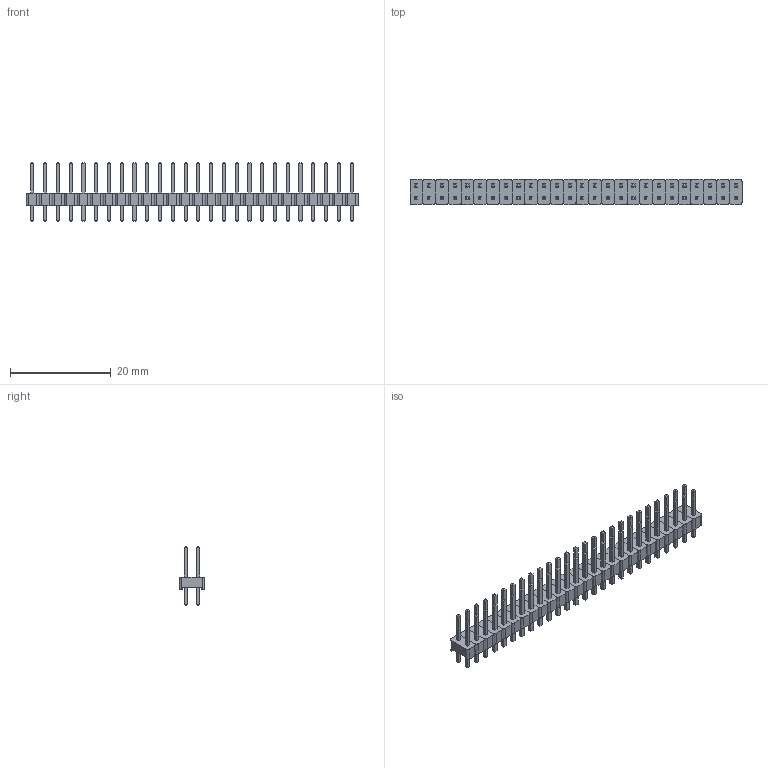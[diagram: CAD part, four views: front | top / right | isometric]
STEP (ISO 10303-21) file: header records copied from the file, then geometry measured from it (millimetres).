
FILE_DESCRIPTION(('FreeCAD Model'),'2;1');
FILE_NAME('Open CASCADE Shape Model','2022-04-06T16:02:27',( 'Engenharia Metaltex'),('Metaltex'), 'Open CASCADE STEP processor 7.5','FreeCAD','Unknown');
FILE_SCHEMA(('AUTOMOTIVE_DESIGN { 1 0 10303 214 1 1 1 1 }'));
Length unit declared in the file: millimetre
Products named in the file (105): BPDC; 26; Base025; Pino052; Pino051; 1; Base; Pino1; Pino2; 2; Base001; Pino003; Pino004; 3; Base002; Pino006; Pino005; 4; Base003; Pino008; Pino007; 5; Base004; Pino009; Pino010; 6; Base005; Pino012; Pino011; 7; Base006; Pino013; Pino014; 8; Base007; Pino015; Pino016; 9; Base008; Pino017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
Assembly tree (104 placements, depth 3):
  BPDC
    26
      Base025
      Pino052
      Pino051
    1
      Base
      Pino1
      Pino2
    2
      Base001
      Pino003
      Pino004
    3
      Base002
      Pino006
      Pino005
    4
      Base003
      Pino008
      Pino007
    5
      Base004
      Pino009
      Pino010
    6
      Base005
      Pino012
      Pino011
    7
      Base006
      Pino013
      Pino014
    8
      Base007
      Pino015
      Pino016
    9
      Base008
      Pino017
      Pino018
    10
      Base009
      Pino019
      Pino020
    11
      Base010
      Pino021
      Pino022
    12
      Base011
      Pino023
      Pino024
    13
      Base012
      Pino025
      Pino026
    14
      Base013
      Pino027
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Bounding box: 66.04 x 5.08 x 11.54 mm (x, y, z)
Volume: 908 mm3; surface area: 3344.4 mm2
Topology: 78 solids, 78 shells, 1300 faces, 3016 edges, 1872 vertices
Faces by surface type: plane 1196, cylinder 104
Entity records: 78019 total; most frequent: CARTESIAN_POINT 12949, DIRECTION 11962, LINE 8632, VECTOR 8632, ORIENTED_EDGE 6032, PCURVE 6032, DEFINITIONAL_REPRESENTATION 6032, EDGE_CURVE 3016
